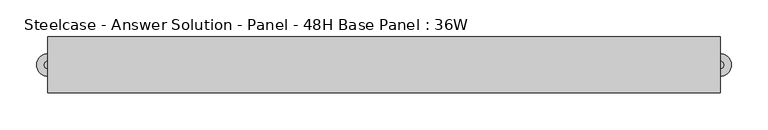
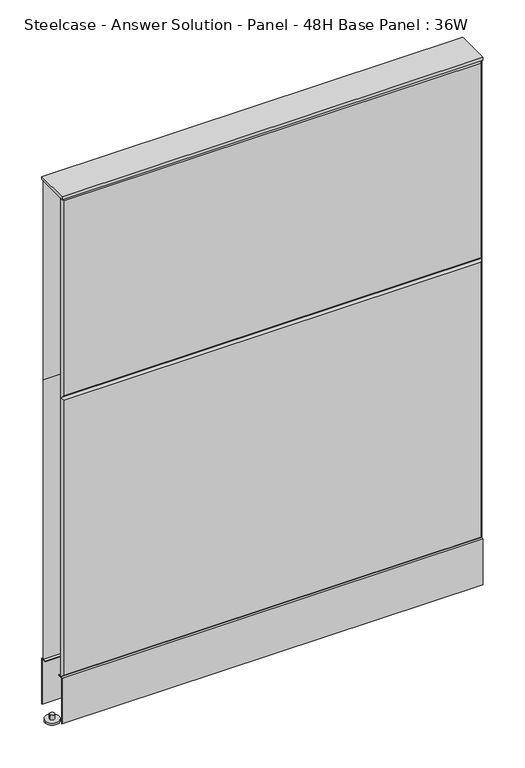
"""IFC4 building model written with IfcOpenShell, lengths in millimetres: furniture geometry, Steelcase - Answer Solution - Panel - 48H Base Panel : 36W."""

from ifc_helpers import new_model, si_unit, point, frame, frame_2d, origin, place, context, project, spatial, polyline, circle_curve, trimmed, segment, composite_curve, outline, extrude, faceted_brep, source, transform, mapped, element, save


def steelcase_answer_solution_panel_48h_base_panel_36w_b2736a18(model_context):
    return source(origin(), model_context, "Body", "SolidModel", [
        extrude(outline(composite_curve([segment(trimmed(circle_curve(frame_2d((457.2, 0.0320214)), 5.08), [point((462.28, 0.0320214))], [point((452.12, 0.0320214))], False, "CARTESIAN"), True, "CONTINUOUS"), segment(trimmed(circle_curve(frame_2d((457.2, 0.0320214)), 5.08), [point((452.12, 0.0320214))], [point((462.28, 0.0320214))], False, "CARTESIAN"), True, "CONTINUOUS")], self_intersect=False)), frame((0.0, 0.0, 5.0799671), z_axis=(0.0, 0.0, 1.0), x_axis=(1.0, 0.0, 0.0)), (0.0, 0.0, 1.0), 10.414),
        extrude(outline(composite_curve([segment(trimmed(circle_curve(frame_2d((457.2, 0.0320214)), 15.24), [point((472.44, 0.0320214))], [point((441.96, 0.0320214))], False, "CARTESIAN"), True, "CONTINUOUS"), segment(trimmed(circle_curve(frame_2d((457.2, 0.0320214)), 15.24), [point((441.96, 0.0320214))], [point((472.44, 0.0320214))], False, "CARTESIAN"), True, "CONTINUOUS")], self_intersect=False)), frame((0.0, 0.0, -3.29e-05), z_axis=(0.0, 0.0, 1.0), x_axis=(1.0, 0.0, 0.0)), (0.0, 0.0, 1.0), 5.08),
        extrude(outline(composite_curve([segment(trimmed(circle_curve(frame_2d((-457.2, 0.0320214)), 5.08), [point((-462.28, 0.0320214))], [point((-452.12, 0.0320214))], False, "CARTESIAN"), True, "CONTINUOUS"), segment(trimmed(circle_curve(frame_2d((-457.2, 0.0320214)), 5.08), [point((-452.12, 0.0320214))], [point((-462.28, 0.0320214))], False, "CARTESIAN"), True, "CONTINUOUS")], self_intersect=False)), frame((0.0, 0.0, 5.0799671), z_axis=(0.0, 0.0, 1.0), x_axis=(1.0, 0.0, 0.0)), (0.0, 0.0, 1.0), 10.414),
        extrude(outline(composite_curve([segment(trimmed(circle_curve(frame_2d((-457.2, 0.0320214)), 15.24), [point((-472.44, 0.0320214))], [point((-441.96, 0.0320214))], False, "CARTESIAN"), True, "CONTINUOUS"), segment(trimmed(circle_curve(frame_2d((-457.2, 0.0320214)), 15.24), [point((-441.96, 0.0320214))], [point((-472.44, 0.0320214))], False, "CARTESIAN"), True, "CONTINUOUS")], self_intersect=False)), frame((0.0, 0.0, -3.29e-05), z_axis=(0.0, 0.0, 1.0), x_axis=(1.0, 0.0, 0.0)), (0.0, 0.0, 1.0), 5.08),
        faceted_brep([(-452.374, 38.1635011, 1214.374), (452.374, 38.1635011, 1214.374), (452.374, 38.1635011, 766.826), (-452.374, 38.1635011, 766.826), (-457.2, 33.3375011, 1219.2), (-457.2, 33.3375011, 762.0), (457.2, 33.3375011, 762.0), (457.2, 33.3375011, 1219.2)], [[[0, 1, 2, 3]], [[4, 5, 6, 7]], [[4, 7, 1, 0]], [[7, 6, 2, 1]], [[6, 5, 3, 2]], [[5, 4, 0, 3]]]),
        faceted_brep([(-452.374, 38.1635011, 757.174), (452.374, 38.1635011, 757.174), (452.374, 38.1635011, 125.476), (-452.374, 38.1635011, 125.476), (-457.2, 33.3375011, 762.0), (-457.2, 33.3375011, 120.65), (457.2, 33.3375011, 120.65), (457.2, 33.3375011, 762.0)], [[[0, 1, 2, 3]], [[4, 5, 6, 7]], [[4, 7, 1, 0]], [[7, 6, 2, 1]], [[6, 5, 3, 2]], [[5, 4, 0, 3]]]),
        faceted_brep([(452.374, -38.1635011, 1214.374), (-452.374, -38.1635011, 1214.374), (-452.374, -38.1635011, 766.826), (452.374, -38.1635011, 766.826), (457.2, -33.3375011, 1219.2), (457.2, -33.3375011, 762.0), (-457.2, -33.3375011, 762.0), (-457.2, -33.3375011, 1219.2)], [[[0, 1, 2, 3]], [[4, 5, 6, 7]], [[4, 7, 1, 0]], [[7, 6, 2, 1]], [[6, 5, 3, 2]], [[5, 4, 0, 3]]]),
        faceted_brep([(452.374, -38.1635011, 757.174), (-452.374, -38.1635011, 757.174), (-452.374, -38.1635011, 125.476), (452.374, -38.1635011, 125.476), (457.2, -33.3375011, 762.0), (457.2, -33.3375011, 120.65), (-457.2, -33.3375011, 120.65), (-457.2, -33.3375011, 762.0)], [[[0, 1, 2, 3]], [[4, 5, 6, 7]], [[4, 7, 1, 0]], [[7, 6, 2, 1]], [[6, 5, 3, 2]], [[5, 4, 0, 3]]]),
        extrude(outline(polyline([(457.2, 38.1000194), (457.2, -38.1000194), (-457.2, -38.1000194), (-457.2, 38.1000194), (457.2, 38.1000194)])), frame((0.0, 0.0, 1219.2), z_axis=(0.0, 0.0, 1.0), x_axis=(1.0, 0.0, 0.0)), (0.0, 0.0, 1.0), 6.35),
        extrude(outline(polyline([(25.4000011, 119.8575157), (25.4000011, 120.65), (38.1000194, 120.65), (38.1000194, 15.494), (37.3075215, 15.494), (37.3075215, 119.8575157), (25.4000011, 119.8575157)])), frame((-457.2, 0.0, 0.0), z_axis=(1.0, 0.0, 0.0), x_axis=(0.0, 1.0, 0.0)), (0.0, 0.0, 1.0), 914.4),
        extrude(outline(polyline([(-25.4000011, 119.8575157), (-37.3075215, 119.8575157), (-37.3075215, 15.494), (-38.1000194, 15.494), (-38.1000194, 120.65), (-25.4000011, 120.65), (-25.4000011, 119.8575157)])), frame((-457.2, 0.0, 0.0), z_axis=(1.0, 0.0, 0.0), x_axis=(0.0, 1.0, 0.0)), (0.0, 0.0, 1.0), 914.4),
    ])


if __name__ == "__main__":
    model = new_model("IFC4")
    model_context = context("Model", 3, world=origin())
    ifc_project = project(units=[si_unit("LENGTHUNIT", "METRE", prefix="MILLI")], contexts=[model_context])
    site = spatial("IfcSite", under=ifc_project)
    building = spatial("IfcBuilding", under=site)
    placement = place(None, origin())
    steelcase_answer_solution_panel_48h_base_panel_36w_shape = steelcase_answer_solution_panel_48h_base_panel_36w_b2736a18(model_context)
    element("IfcFurniture", 1, ObjectType="Steelcase - Answer Solution - Panel - 48H Base Panel : 36W", at=placement, inside=building, context=model_context, shape_type="MappedRepresentation", body=[
        mapped(steelcase_answer_solution_panel_48h_base_panel_36w_shape, transform((0.0, 0.0, 0.0), x_axis=(1.0, 0.0, 0.0), y_axis=(0.0, 1.0, 0.0), z_axis=(0.0, 0.0, 1.0))),
    ])
    save(model, "model.ifc")
